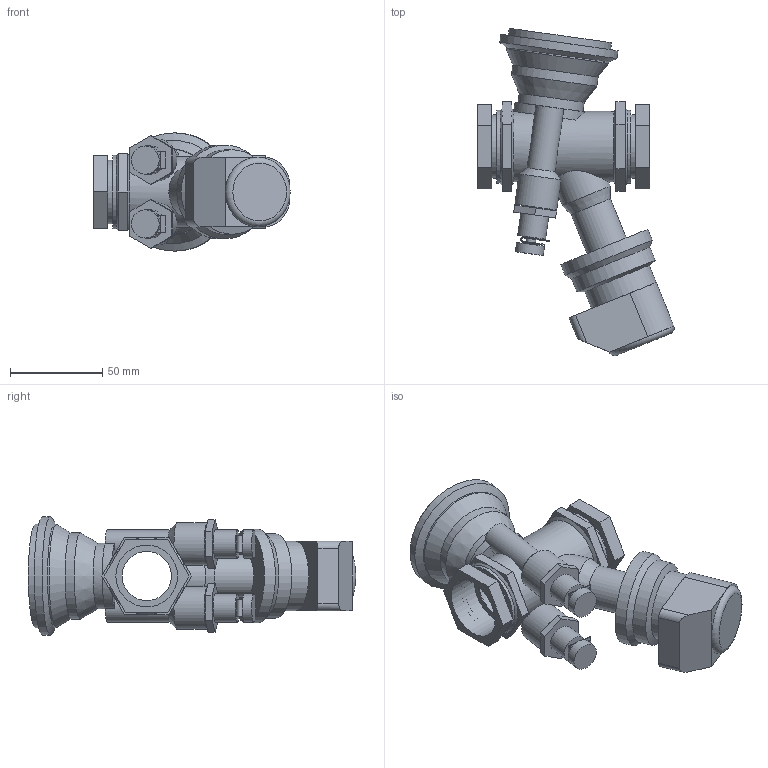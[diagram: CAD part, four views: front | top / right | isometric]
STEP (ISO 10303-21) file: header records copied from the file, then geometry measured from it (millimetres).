
FILE_DESCRIPTION(/* description */ ('VIC BALANCING AND CONTROL VALVE SERIES 7CP (FPT)-EMO 3','CAx-IF Rec.Pracs.---Representation and Presentation of Product Manufacturing Information (PMI)---4.0---2014-10-13'),/* implementation_level */ '2;1');
FILE_NAME(/* name */ 'C:\Users\Vjadhav\AppData\Roaming\Autodesk\ApplicationPlugins\Victaulic.Temp\A633\Victaulic_IPS_Valve Balancing Pressure Independent_TA Series 7CP (FPT)_EMO 3_1 (25).stp',/* time_stamp */ '2021-09-14T20:03:47+06:00',/* author */ ('Vjadhav'),/* organization */ ('Victaulic'),/* preprocessor_version */ 'ST-DEVELOPER v17.2',/* originating_system */ 'Autodesk Inventor 2019',/* authorisation */ '');
FILE_SCHEMA (('AP242_MANAGED_MODEL_BASED_3D_ENGINEERING_MIM_LF { 1 0 10303 442 1 1 4 }'));
Length unit declared in the file: inch
Products named in the file (2): 7CP_EMO 3-01.0; 7CP-01.0
Assembly tree (1 placements, depth 2):
  7CP_EMO 3-01.0
    7CP-01.0
Bounding box: 106.18 x 177.03 x 64.01 mm (x, y, z)
Volume: 251645.7 mm3; surface area: 60331.8 mm2
Topology: 1 solids, 1 shells, 176 faces, 444 edges, 294 vertices
Faces by surface type: plane 118, cylinder 45, cone 12, torus 1
Full cylindrical faces by diameter (mm): 5.08 x6, 15.24 x6, 22.809 x1, 22.86 x2, 26.645 x2, 27.94 x1, 33.401 x3, 34.29 x2, 35.56 x1, 37.631 x1, 38.1 x1, 39.624 x2, 45.72 x1, 46.609 x1, 50.8 x1, 55.88 x2, 64.008 x1
Entity records: 5842 total; most frequent: CARTESIAN_POINT 1148, DIRECTION 968, ORIENTED_EDGE 888, EDGE_CURVE 444, AXIS2_PLACEMENT_3D 362, VERTEX_POINT 294, LINE 244, VECTOR 244
